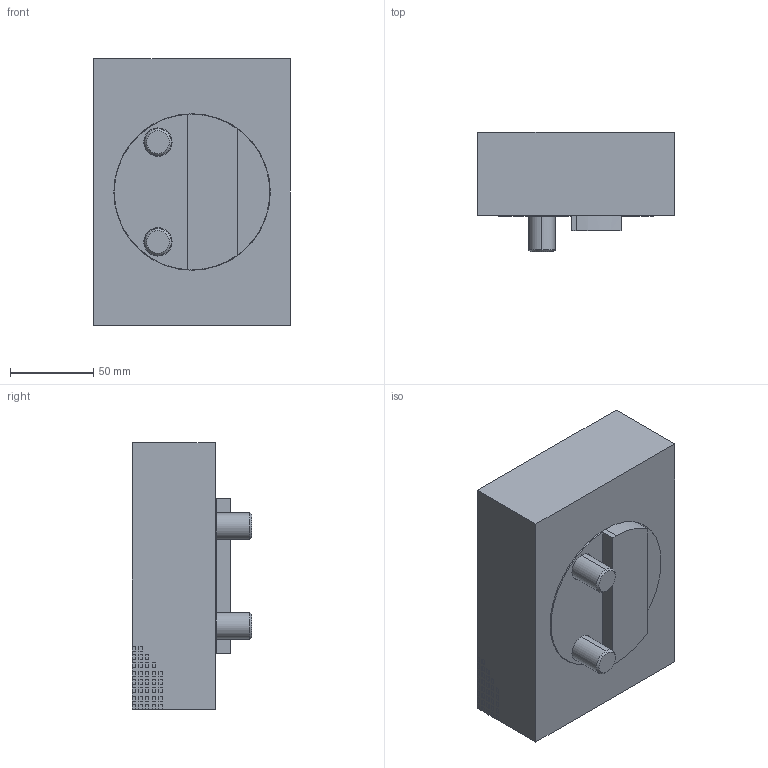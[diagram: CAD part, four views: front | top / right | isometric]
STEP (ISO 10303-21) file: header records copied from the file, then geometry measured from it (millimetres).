
FILE_DESCRIPTION (( 'STEP AP203' ), '1' );
FILE_NAME ('6921704020042.STEP', '2008-12-15T12:25:46', ( ' ' ), ( '' ), 'SwSTEP 2.0', 'SolidWorks 2008', '' );
FILE_SCHEMA (( 'CONFIG_CONTROL_DESIGN' ));
Length unit declared in the file: millimetre
Products named in the file (2): 6921704020042; Teil12^6921704020042_Standard
Assembly tree (1 placements, depth 2):
  6921704020042
    Teil12^6921704020042_Standard
Bounding box: 118.1 x 71.73 x 160.4 mm (x, y, z)
Volume: 967160 mm3; surface area: 93297.7 mm2
Topology: 1 solids, 1 shells, 257 faces, 640 edges, 414 vertices
Faces by surface type: plane 208, cylinder 33, torus 8, cone 8
Entity records: 7708 total; most frequent: CARTESIAN_POINT 1311, ORIENTED_EDGE 1272, DIRECTION 1260, EDGE_CURVE 636, LINE 534, VECTOR 534, VERTEX_POINT 414, AXIS2_PLACEMENT_3D 363
